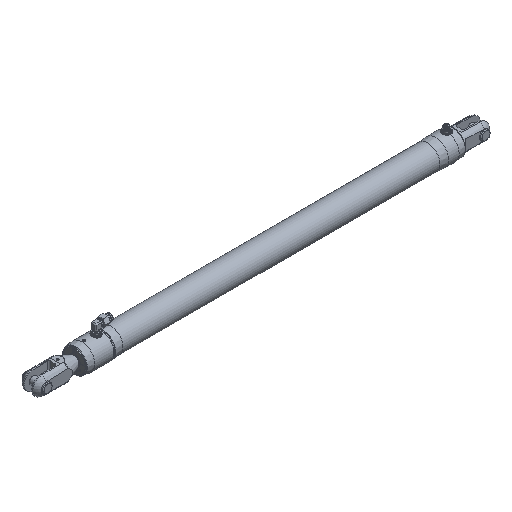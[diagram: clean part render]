
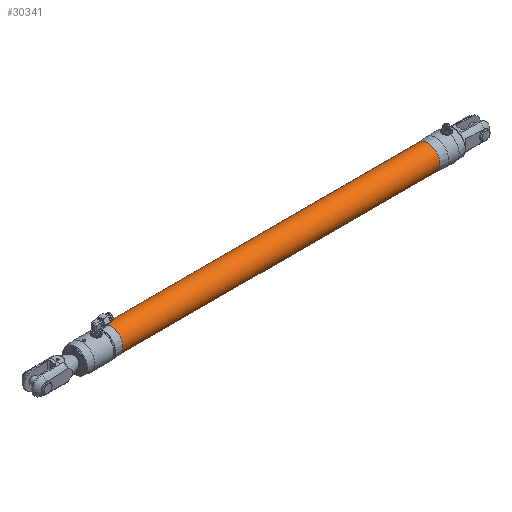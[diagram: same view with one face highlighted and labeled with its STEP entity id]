
A CAD part, isometric view. The second image highlights one B-rep face of the part: STEP entity #30341.
In plain terms, the highlighted cylindrical face has radius 25.4 mm (diameter 50.8 mm), a full revolution.
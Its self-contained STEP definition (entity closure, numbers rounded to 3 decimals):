
#405=FACE_BOUND('',#5800,.T.);
#2325=CIRCLE('',#31617,25.4);
#2326=CIRCLE('',#31619,25.4);
#2427=CYLINDRICAL_SURFACE('',#31618,25.4);
#3977=FACE_OUTER_BOUND('',#5799,.T.);
#5799=EDGE_LOOP('',(#26043));
#5800=EDGE_LOOP('',(#26044));
#13888=VERTEX_POINT('',#55559);
#13889=VERTEX_POINT('',#55562);
#17965=EDGE_CURVE('',#13888,#13888,#2325,.T.);
#17966=EDGE_CURVE('',#13889,#13889,#2326,.T.);
#26043=ORIENTED_EDGE('',*,*,#17966,.T.);
#26044=ORIENTED_EDGE('',*,*,#17965,.F.);
#30341=ADVANCED_FACE('',(#3977,#405),#2427,.T.);
#31617=AXIS2_PLACEMENT_3D('',#55560,#36698,#36699);
#31618=AXIS2_PLACEMENT_3D('',#55561,#36700,#36701);
#31619=AXIS2_PLACEMENT_3D('',#55563,#36702,#36703);
#36698=DIRECTION('center_axis',(1.,0.,0.));
#36699=DIRECTION('ref_axis',(0.,0.,-1.));
#36700=DIRECTION('center_axis',(1.,0.,0.));
#36701=DIRECTION('ref_axis',(0.,0.,
1.));
#36702=DIRECTION('center_axis',(1.,0.,0.));
#36703=DIRECTION('ref_axis',(0.,0.,-1.));
#55559=CARTESIAN_POINT('',(-38.111,0.,25.4));
#55560=CARTESIAN_POINT('Origin',(-38.111,0.,
0.));
#55561=CARTESIAN_POINT('Origin',(-370.422,0.,
0.));
#55562=CARTESIAN_POINT('',(-702.734,0.,25.4));
#55563=CARTESIAN_POINT('Origin',(-702.734,0.,
0.));
